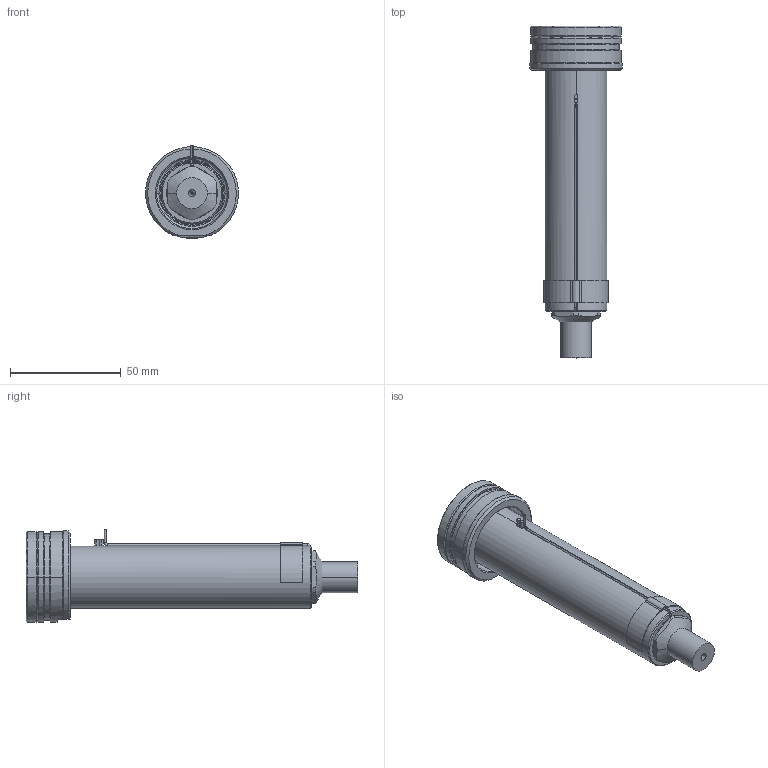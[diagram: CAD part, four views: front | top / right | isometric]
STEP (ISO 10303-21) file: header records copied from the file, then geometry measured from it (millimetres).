
FILE_DESCRIPTION((''),'2;1');
FILE_NAME('EO10_PG-FBE_STD_120_SW','2024-02-19T11:58:38',('sundharh'),(''),'CREO PARAMETRIC BY PTC INC, 2023154','CREO PARAMETRIC BY PTC INC, 2023154','');
FILE_SCHEMA(('CONFIG_CONTROL_DESIGN'));
Length unit declared in the file: millimetre
Products named in the file (1): EO10_PG-FBE_STD_120_SW
Bounding box: 41.85 x 150 x 42.02 mm (x, y, z)
Volume: 85277.9 mm3; surface area: 24459.6 mm2
Topology: 1 solids, 1 shells, 202 faces, 538 edges, 333 vertices
Faces by surface type: cylinder 80, plane 58, cone 41, torus 17, bspline 3, sphere 3
Entity records: 7321 total; most frequent: CARTESIAN_POINT 2183, DIRECTION 1130, ORIENTED_EDGE 1064, EDGE_CURVE 532, AXIS2_PLACEMENT_3D 471, VERTEX_POINT 333, CIRCLE 272, EDGE_LOOP 219
